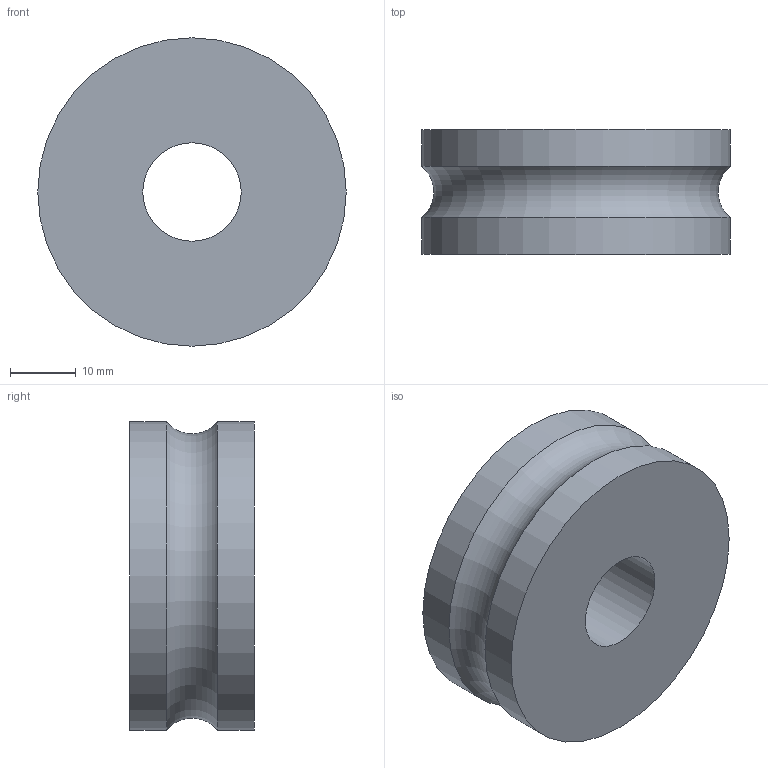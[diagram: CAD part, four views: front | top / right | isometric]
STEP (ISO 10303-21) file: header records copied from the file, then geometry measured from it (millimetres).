
FILE_DESCRIPTION (( 'STEP AP214' ), '1' );
FILE_NAME ('LFR5302KDD.STEP', '2020-05-12T02:03:31', ( '' ), ( '' ), 'SwSTEP 2.0', 'SolidWorks 2019', '' );
FILE_SCHEMA (( 'AUTOMOTIVE_DESIGN' ));
Length unit declared in the file: millimetre
Products named in the file (1): LFR5302KDD
Bounding box: 47 x 19 x 47 mm (x, y, z)
Volume: 28177.2 mm3; surface area: 6915.6 mm2
Topology: 1 solids, 1 shells, 6 faces, 10 edges, 6 vertices
Faces by surface type: cylinder 3, plane 2, torus 1
Full cylindrical faces by diameter (mm): 15 x1, 47 x2
Entity records: 162 total; most frequent: DIRECTION 26, CARTESIAN_POINT 19, AXIS2_PLACEMENT_3D 13, ORIENTED_EDGE 12, EDGE_LOOP 12, FACE_OUTER_BOUND 10, EDGE_CURVE 6, CIRCLE 6
